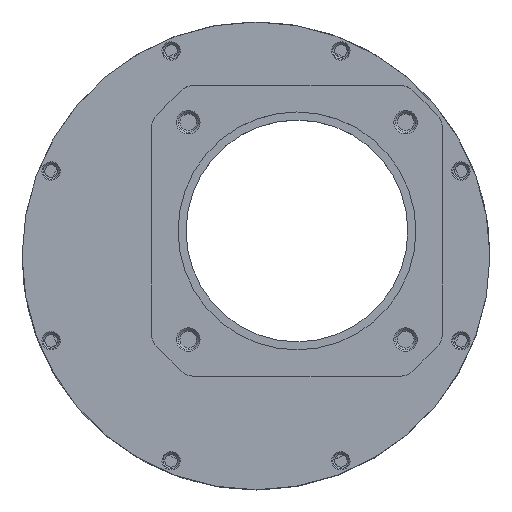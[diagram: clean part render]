
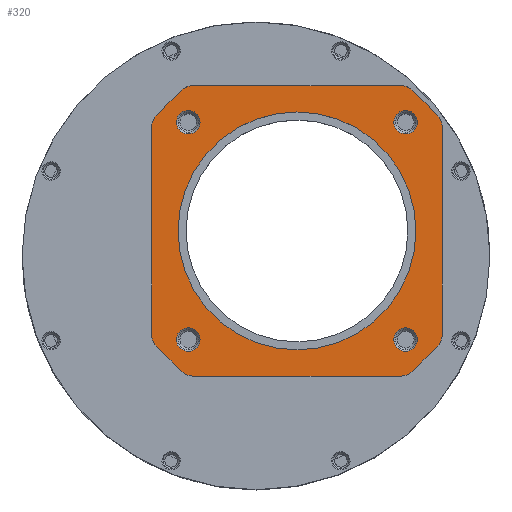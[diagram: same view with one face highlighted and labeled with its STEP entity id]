
A CAD part, top view. The second image highlights one B-rep face of the part: STEP entity #320.
In plain terms, the highlighted planar face has unit normal (0, 0, 1).
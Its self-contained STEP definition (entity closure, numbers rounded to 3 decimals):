
#198=FACE_BOUND('',#964,.F.);
#199=FACE_BOUND('',#965,.F.);
#200=FACE_BOUND('',#966,.F.);
#201=FACE_BOUND('',#967,.F.);
#202=FACE_BOUND('',#968,.F.);
#229=PLANE('',#5672);
#320=ADVANCED_FACE('',(#198,#199,#200,#201,#202,#635),#229,.T.);
#635=FACE_OUTER_BOUND('',#969,.F.);
#964=EDGE_LOOP('',(#1406,#1407));
#965=EDGE_LOOP('',(#1408,#1409));
#966=EDGE_LOOP('',(#1410,#1411));
#967=EDGE_LOOP('',(#1412,#1413));
#968=EDGE_LOOP('',(#1414,#1415));
#969=EDGE_LOOP('',(#1416,#1417,#1418,#1419,#1420,#1421,#1422,#1423,#1424,
#1425,#1426,#1427,#1428,#1429,#1430,#1431));
#1406=ORIENTED_EDGE('',*,*,#3635,.F.);
#1407=ORIENTED_EDGE('',*,*,#3636,.F.);
#1408=ORIENTED_EDGE('',*,*,#3640,.F.);
#1409=ORIENTED_EDGE('',*,*,#3641,.F.);
#1410=ORIENTED_EDGE('',*,*,#3630,.F.);
#1411=ORIENTED_EDGE('',*,*,#3634,.F.);
#1412=ORIENTED_EDGE('',*,*,#3637,.F.);
#1413=ORIENTED_EDGE('',*,*,#3638,.F.);
#1414=ORIENTED_EDGE('',*,*,#3631,.F.);
#1415=ORIENTED_EDGE('',*,*,#3632,.F.);
#1416=ORIENTED_EDGE('',*,*,#3658,.T.);
#1417=ORIENTED_EDGE('',*,*,#3652,.T.);
#1418=ORIENTED_EDGE('',*,*,#3639,.F.);
#1419=ORIENTED_EDGE('',*,*,#3654,.T.);
#1420=ORIENTED_EDGE('',*,*,#3661,.T.);
#1421=ORIENTED_EDGE('',*,*,#3656,.T.);
#1422=ORIENTED_EDGE('',*,*,#3628,.F.);
#1423=ORIENTED_EDGE('',*,*,#3642,.T.);
#1424=ORIENTED_EDGE('',*,*,#3660,.T.);
#1425=ORIENTED_EDGE('',*,*,#3644,.T.);
#1426=ORIENTED_EDGE('',*,*,#3633,.F.);
#1427=ORIENTED_EDGE('',*,*,#3646,.T.);
#1428=ORIENTED_EDGE('',*,*,#3659,.T.);
#1429=ORIENTED_EDGE('',*,*,#3648,.T.);
#1430=ORIENTED_EDGE('',*,*,#3629,.F.);
#1431=ORIENTED_EDGE('',*,*,#3650,.T.);
#3112=CIRCLE('',#5482,14.75);
#3113=CIRCLE('',#5483,1.466);
#3114=CIRCLE('',#5484,1.466);
#3115=CIRCLE('',#5485,14.75);
#3116=CIRCLE('',#5486,1.466);
#3117=CIRCLE('',#5487,1.466);
#3118=CIRCLE('',#5488,1.466);
#3119=CIRCLE('',#5489,1.466);
#3120=CIRCLE('',#5490,1.466);
#3121=CIRCLE('',#5491,1.466);
#3122=CIRCLE('',#5492,2.);
#3123=CIRCLE('',#5493,2.);
#3124=CIRCLE('',#5494,2.);
#3125=CIRCLE('',#5495,2.);
#3126=CIRCLE('',#5496,2.);
#3127=CIRCLE('',#5497,2.);
#3128=CIRCLE('',#5498,2.);
#3129=CIRCLE('',#5499,2.);
#3628=EDGE_CURVE('',#5045,#5044,#4312,.T.);
#3629=EDGE_CURVE('',#5049,#5048,#4313,.T.);
#3630=EDGE_CURVE('',#5043,#5042,#3112,.T.);
#3631=EDGE_CURVE('',#5041,#5040,#3113,.T.);
#3632=EDGE_CURVE('',#5040,#5041,#3114,.T.);
#3633=EDGE_CURVE('',#5047,#5046,#4314,.T.);
#3634=EDGE_CURVE('',#5042,#5043,#3115,.T.);
#3635=EDGE_CURVE('',#5039,#5038,#3116,.T.);
#3636=EDGE_CURVE('',#5038,#5039,#3117,.T.);
#3637=EDGE_CURVE('',#5037,#5036,#3118,.T.);
#3638=EDGE_CURVE('',#5036,#5037,#3119,.T.);
#3639=EDGE_CURVE('',#5051,#5050,#4315,.T.);
#3640=EDGE_CURVE('',#5035,#5034,#3120,.T.);
#3641=EDGE_CURVE('',#5034,#5035,#3121,.T.);
#3642=EDGE_CURVE('',#5045,#5033,#3122,.T.);
#3644=EDGE_CURVE('',#5032,#5046,#3123,.T.);
#3646=EDGE_CURVE('',#5047,#5031,#3124,.T.);
#3648=EDGE_CURVE('',#5030,#5048,#3125,.T.);
#3650=EDGE_CURVE('',#5049,#5029,#3126,.T.);
#3652=EDGE_CURVE('',#5028,#5050,#3127,.T.);
#3654=EDGE_CURVE('',#5051,#5027,#3128,.T.);
#3656=EDGE_CURVE('',#5026,#5044,#3129,.T.);
#3658=EDGE_CURVE('',#5029,#5028,#4324,.T.);
#3659=EDGE_CURVE('',#5031,#5030,#4325,.T.);
#3660=EDGE_CURVE('',#5033,#5032,#4326,.T.);
#3661=EDGE_CURVE('',#5027,#5026,#4327,.T.);
#4312=LINE('',#8533,#4632);
#4313=LINE('',#8534,#4633);
#4314=LINE('',#8538,#4634);
#4315=LINE('',#8544,#4635);
#4324=LINE('',#8563,#4644);
#4325=LINE('',#8564,#4645);
#4326=LINE('',#8565,#4646);
#4327=LINE('',#8566,#4647);
#4632=VECTOR('',#6428,4.354);
#4633=VECTOR('',#6429,4.354);
#4634=VECTOR('',#6436,4.354);
#4635=VECTOR('',#6447,4.354);
#4644=VECTOR('',#6476,25.843);
#4645=VECTOR('',#6477,25.843);
#4646=VECTOR('',#6478,25.843);
#4647=VECTOR('',#6479,25.843);
#5026=VERTEX_POINT('',#8215);
#5027=VERTEX_POINT('',#8216);
#5028=VERTEX_POINT('',#8217);
#5029=VERTEX_POINT('',#8218);
#5030=VERTEX_POINT('',#8219);
#5031=VERTEX_POINT('',#8220);
#5032=VERTEX_POINT('',#8221);
#5033=VERTEX_POINT('',#8222);
#5034=VERTEX_POINT('',#8223);
#5035=VERTEX_POINT('',#8224);
#5036=VERTEX_POINT('',#8225);
#5037=VERTEX_POINT('',#8226);
#5038=VERTEX_POINT('',#8227);
#5039=VERTEX_POINT('',#8228);
#5040=VERTEX_POINT('',#8229);
#5041=VERTEX_POINT('',#8230);
#5042=VERTEX_POINT('',#8231);
#5043=VERTEX_POINT('',#8232);
#5044=VERTEX_POINT('',#8233);
#5045=VERTEX_POINT('',#8234);
#5046=VERTEX_POINT('',#8235);
#5047=VERTEX_POINT('',#8236);
#5048=VERTEX_POINT('',#8237);
#5049=VERTEX_POINT('',#8238);
#5050=VERTEX_POINT('',#8239);
#5051=VERTEX_POINT('',#8240);
#5482=AXIS2_PLACEMENT_3D('',#8535,#6430,#6431);
#5483=AXIS2_PLACEMENT_3D('',#8536,#6432,#6433);
#5484=AXIS2_PLACEMENT_3D('',#8537,#6434,#6435);
#5485=AXIS2_PLACEMENT_3D('',#8539,#6437,#6438);
#5486=AXIS2_PLACEMENT_3D('',#8540,#6439,#6440);
#5487=AXIS2_PLACEMENT_3D('',#8541,#6441,#6442);
#5488=AXIS2_PLACEMENT_3D('',#8542,#6443,#6444);
#5489=AXIS2_PLACEMENT_3D('',#8543,#6445,#6446);
#5490=AXIS2_PLACEMENT_3D('',#8545,#6448,#6449);
#5491=AXIS2_PLACEMENT_3D('',#8546,#6450,#6451);
#5492=AXIS2_PLACEMENT_3D('',#8547,#6452,#6453);
#5493=AXIS2_PLACEMENT_3D('',#8549,#6455,#6456);
#5494=AXIS2_PLACEMENT_3D('',#8551,#6458,#6459);
#5495=AXIS2_PLACEMENT_3D('',#8553,#6461,#6462);
#5496=AXIS2_PLACEMENT_3D('',#8555,#6464,#6465);
#5497=AXIS2_PLACEMENT_3D('',#8557,#6467,#6468);
#5498=AXIS2_PLACEMENT_3D('',#8559,#6470,#6471);
#5499=AXIS2_PLACEMENT_3D('',#8561,#6473,#6474);
#5672=AXIS2_PLACEMENT_3D('',#8859,#6944,#6945);
#6428=DIRECTION('',(0.707,0.707,0.));
#6429=DIRECTION('',(-0.707,-0.707,0.));
#6430=DIRECTION('',(0.,0.,-1.));
#6431=DIRECTION('',(-1.,0.,0.));
#6432=DIRECTION('',(0.,0.,-1.));
#6433=DIRECTION('',(-1.,0.,0.));
#6434=DIRECTION('',(0.,0.,-1.));
#6435=DIRECTION('',(1.,0.,0.));
#6436=DIRECTION('',(0.707,-0.707,0.));
#6437=DIRECTION('',(0.,0.,-1.));
#6438=DIRECTION('',(1.,0.,0.));
#6439=DIRECTION('',(0.,0.,-1.));
#6440=DIRECTION('',(-1.,0.,0.));
#6441=DIRECTION('',(0.,0.,-1.));
#6442=DIRECTION('',(1.,0.,0.));
#6443=DIRECTION('',(0.,0.,-1.));
#6444=DIRECTION('',(-1.,0.,0.));
#6445=DIRECTION('',(0.,0.,-1.));
#6446=DIRECTION('',(1.,0.,0.));
#6447=DIRECTION('',(-0.707,0.707,0.));
#6448=DIRECTION('',(0.,0.,-1.));
#6449=DIRECTION('',(-1.,0.,0.));
#6450=DIRECTION('',(0.,0.,-1.));
#6451=DIRECTION('',(1.,0.,0.));
#6452=DIRECTION('',(0.,0.,-1.));
#6453=DIRECTION('',(0.707,-0.707,0.));
#6455=DIRECTION('',(0.,0.,-1.));
#6456=DIRECTION('',(0.,-1.,0.));
#6458=DIRECTION('',(0.,0.,-1.));
#6459=DIRECTION('',(-0.707,-0.707,0.));
#6461=DIRECTION('',(0.,0.,-1.));
#6462=DIRECTION('',(-1.,0.,0.));
#6464=DIRECTION('',(0.,0.,-1.));
#6465=DIRECTION('',(-0.707,0.707,0.));
#6467=DIRECTION('',(0.,0.,-1.));
#6468=DIRECTION('',(0.,1.,0.));
#6470=DIRECTION('',(0.,0.,-1.));
#6471=DIRECTION('',(0.707,0.707,0.));
#6473=DIRECTION('',(0.,0.,-1.));
#6474=DIRECTION('',(1.,0.,0.));
#6476=DIRECTION('',(1.,0.,0.));
#6477=DIRECTION('',(0.,1.,0.));
#6478=DIRECTION('',(-1.,0.,0.));
#6479=DIRECTION('',(0.,-1.,0.));
#6944=DIRECTION('',(0.,0.,1.));
#6945=DIRECTION('',(0.,1.,0.));
#8215=CARTESIAN_POINT('',(220.122,25.808,0.));
#8216=CARTESIAN_POINT('',(220.122,51.651,0.));
#8217=CARTESIAN_POINT('',(215.043,56.73,0.));
#8218=CARTESIAN_POINT('',(189.2,56.73,0.));
#8219=CARTESIAN_POINT('',(184.122,51.651,0.));
#8220=CARTESIAN_POINT('',(184.122,25.808,0.));
#8221=CARTESIAN_POINT('',(189.2,20.73,0.));
#8222=CARTESIAN_POINT('',(215.043,20.73,0.));
#8223=CARTESIAN_POINT('',(217.073,52.215,0.));
#8224=CARTESIAN_POINT('',(214.14,52.215,0.));
#8225=CARTESIAN_POINT('',(217.073,25.245,0.));
#8226=CARTESIAN_POINT('',(214.14,25.245,0.));
#8227=CARTESIAN_POINT('',(190.103,25.245,0.));
#8228=CARTESIAN_POINT('',(187.17,25.245,0.));
#8229=CARTESIAN_POINT('',(190.103,52.215,0.));
#8230=CARTESIAN_POINT('',(187.17,52.215,0.));
#8231=CARTESIAN_POINT('',(216.872,38.73,0.));
#8232=CARTESIAN_POINT('',(187.372,38.73,0.));
#8233=CARTESIAN_POINT('',(219.536,24.394,0.));
#8234=CARTESIAN_POINT('',(216.457,21.315,0.));
#8235=CARTESIAN_POINT('',(187.786,21.315,0.));
#8236=CARTESIAN_POINT('',(184.707,24.394,0.));
#8237=CARTESIAN_POINT('',(184.707,53.065,0.));
#8238=CARTESIAN_POINT('',(187.786,56.144,0.));
#8239=CARTESIAN_POINT('',(216.457,56.144,0.));
#8240=CARTESIAN_POINT('',(219.536,53.065,0.));
#8533=CARTESIAN_POINT('',(216.457,21.315,0.));
#8534=CARTESIAN_POINT('',(187.786,56.144,0.));
#8535=CARTESIAN_POINT('',(202.122,38.73,0.));
#8536=CARTESIAN_POINT('',(188.637,52.215,0.));
#8537=CARTESIAN_POINT('',(188.637,52.215,0.));
#8538=CARTESIAN_POINT('',(184.707,24.394,0.));
#8539=CARTESIAN_POINT('',(202.122,38.73,0.));
#8540=CARTESIAN_POINT('',(188.637,25.245,0.));
#8541=CARTESIAN_POINT('',(188.637,25.245,0.));
#8542=CARTESIAN_POINT('',(215.607,25.245,0.));
#8543=CARTESIAN_POINT('',(215.607,25.245,0.));
#8544=CARTESIAN_POINT('',(219.536,53.065,0.));
#8545=CARTESIAN_POINT('',(215.607,52.215,0.));
#8546=CARTESIAN_POINT('',(215.607,52.215,0.));
#8547=CARTESIAN_POINT('',(215.043,22.73,0.));
#8549=CARTESIAN_POINT('',(189.2,22.73,0.));
#8551=CARTESIAN_POINT('',(186.122,25.808,0.));
#8553=CARTESIAN_POINT('',(186.122,51.651,0.));
#8555=CARTESIAN_POINT('',(189.2,54.73,0.));
#8557=CARTESIAN_POINT('',(215.043,54.73,0.));
#8559=CARTESIAN_POINT('',(218.122,51.651,0.));
#8561=CARTESIAN_POINT('',(218.122,25.808,0.));
#8563=CARTESIAN_POINT('',(189.2,56.73,0.));
#8564=CARTESIAN_POINT('',(184.122,25.808,0.));
#8565=CARTESIAN_POINT('',(215.043,20.73,0.));
#8566=CARTESIAN_POINT('',(220.122,51.651,0.));
#8859=CARTESIAN_POINT('',(183.762,20.37,0.));
